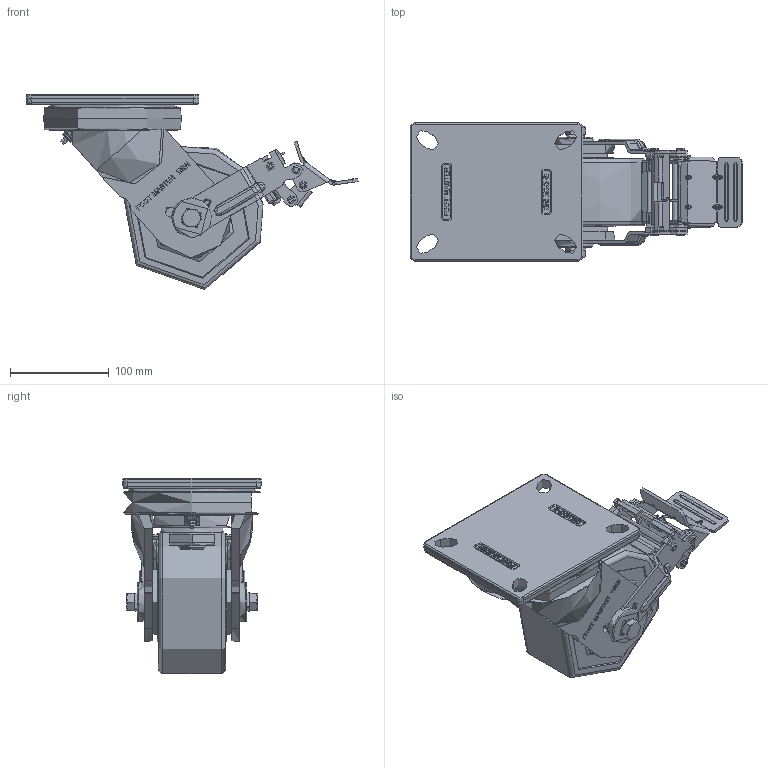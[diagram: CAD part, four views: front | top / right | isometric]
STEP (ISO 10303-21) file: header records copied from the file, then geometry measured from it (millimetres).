
FILE_DESCRIPTION(/* description */ (''),/* implementation_level */ '2;1');
FILE_NAME(/* name */ 'Y:\1.기술연구소\2.연구개발 진행중\133.고하중캐스터 브레이크 타입 변경건_2025.11.03\1.도면\4.홈페이지용 도면\01. 3D\GXT-150 SERIES\GXT-150-STEP\GXT-150N-BSF-MCD-TB.stp',/* time_stamp */ '2026-07-22T08:50:04+09:00',/* author */ ('장용하'),/* organization */ (''),/* preprocessor_version */ 'ST-DEVELOPER v18.1',/* originating_system */ 'Autodesk Inventor 2021',/* authorisation */ '');
FILE_SCHEMA (('CONFIG_CONTROL_DESIGN'));
Length unit declared in the file: millimetre
Products named in the file (1): GXT-150N-BSF-MCD-TB
Bounding box: 335.87 x 140 x 197.29 mm (x, y, z)
Topology: 1 solids, 5 shells, 1774 faces, 4756 edges, 3076 vertices
Faces by surface type: plane 741, bspline 479, cylinder 437, torus 71, cone 34, sphere 12
Full cylindrical faces by diameter (mm): 2 x7, 4 x6, 6 x1, 6.2 x15, 6.8 x4, 8 x6, 8.5 x6, 12 x2, 12.5 x2, 13 x2, 30 x1, 40 x2, 62.5 x1, 65 x2, 131.086 x1
Entity records: 61338 total; most frequent: CARTESIAN_POINT 19008, ORIENTED_EDGE 9518, DIRECTION 7729, EDGE_CURVE 4759, VERTEX_POINT 3076, AXIS2_PLACEMENT_3D 2624, LINE 2481, VECTOR 2481
